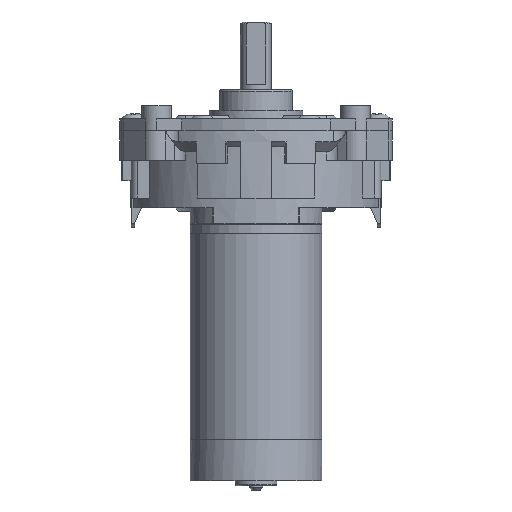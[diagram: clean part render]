
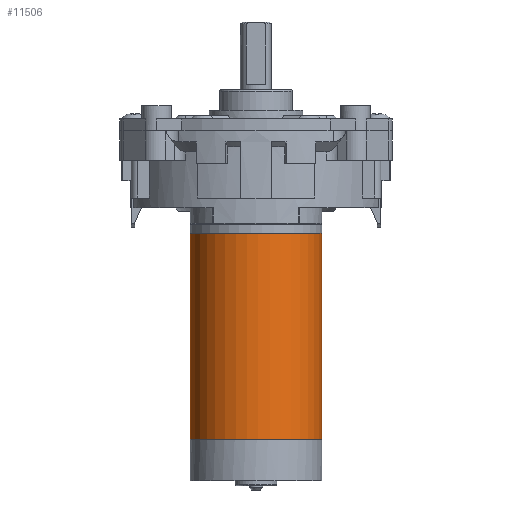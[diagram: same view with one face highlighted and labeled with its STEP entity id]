
A CAD part, front view. The second image highlights one B-rep face of the part: STEP entity #11506.
In plain terms, the highlighted cylindrical face has radius 20 mm (diameter 40 mm), a full revolution.
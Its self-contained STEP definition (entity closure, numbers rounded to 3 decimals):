
#690=FACE_BOUND('',#2466,.T.);
#906=CYLINDRICAL_SURFACE('',#12735,20.);
#1585=FACE_OUTER_BOUND('',#2465,.T.);
#2465=EDGE_LOOP('',(#10202));
#2466=EDGE_LOOP('',(#10203));
#4504=CIRCLE('',#12736,20.);
#4505=CIRCLE('',#12737,20.);
#5578=VERTEX_POINT('',#21453);
#5579=VERTEX_POINT('',#21455);
#7146=EDGE_CURVE('',#5578,#5578,#4504,.T.);
#7147=EDGE_CURVE('',#5579,#5579,#4505,.T.);
#10202=ORIENTED_EDGE('',*,*,#7146,.T.);
#10203=ORIENTED_EDGE('',*,*,#7147,.F.);
#11506=ADVANCED_FACE('',(#1585,#690),#906,.T.);
#12735=AXIS2_PLACEMENT_3D('',#21452,#15797,#15798);
#12736=AXIS2_PLACEMENT_3D('',#21454,#15799,#15800);
#12737=AXIS2_PLACEMENT_3D('',#21456,#15801,#15802);
#15797=DIRECTION('center_axis',(0.,0.,1.));
#15798=DIRECTION('ref_axis',(-1.,0.,0.));
#15799=DIRECTION('center_axis',(0.,0.,-1.));
#15800=DIRECTION('ref_axis',(-1.,0.,0.));
#15801=DIRECTION('center_axis',(0.,0.,-1.));
#15802=DIRECTION('ref_axis',(-1.,0.,0.));
#21452=CARTESIAN_POINT('Origin',(0.,0.,0.));
#21453=CARTESIAN_POINT('',(20.,0.,62.4));
#21454=CARTESIAN_POINT('Origin',(0.,0.,62.4));
#21455=CARTESIAN_POINT('',(20.,0.,0.));
#21456=CARTESIAN_POINT('Origin',(0.,0.,0.));
